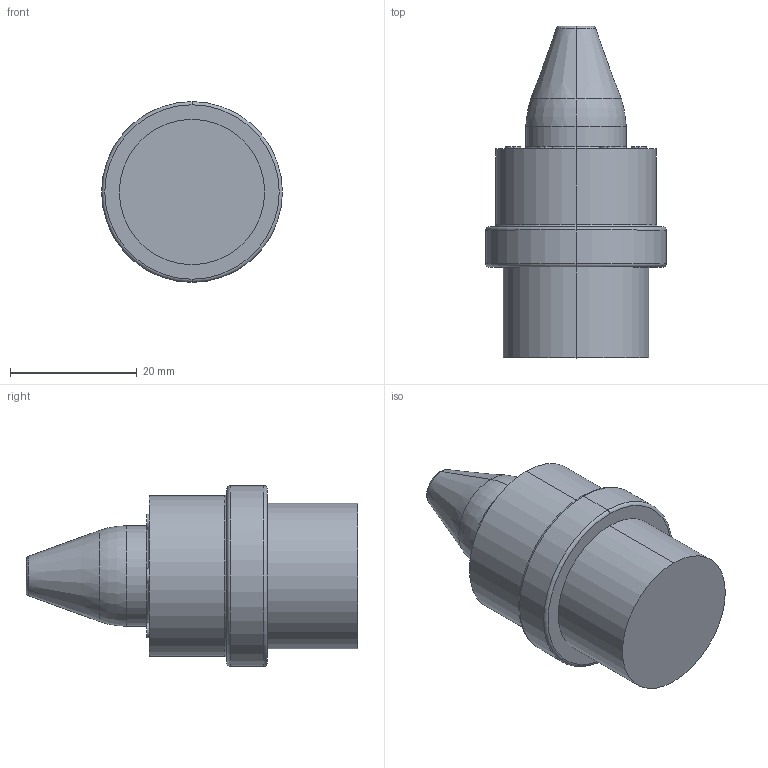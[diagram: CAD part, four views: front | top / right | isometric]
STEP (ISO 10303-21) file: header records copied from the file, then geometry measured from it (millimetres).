
FILE_DESCRIPTION (( 'STEP AP214' ), '1' );
FILE_NAME ('PA-.625-.125-P-W.stp', '2020-05-01T17:50:45', ( '' ), ( '' ), 'SwSTEP 2.0', 'SolidWorks 2017', '' );
FILE_SCHEMA (( 'AUTOMOTIVE_DESIGN' ));
Length unit declared in the file: inch
Products named in the file (1): PA-.625-.125-P-W
Bounding box: 28.57 x 52.45 x 28.57 mm (x, y, z)
Volume: 18770.3 mm3; surface area: 4438 mm2
Topology: 1 solids, 1 shells, 45 faces, 88 edges, 54 vertices
Faces by surface type: cylinder 20, torus 12, plane 11, cone 2
Entity records: 1216 total; most frequent: DIRECTION 246, CARTESIAN_POINT 188, ORIENTED_EDGE 176, AXIS2_PLACEMENT_3D 112, EDGE_CURVE 88, CIRCLE 66, EDGE_LOOP 54, VERTEX_POINT 54
